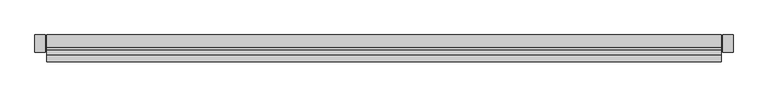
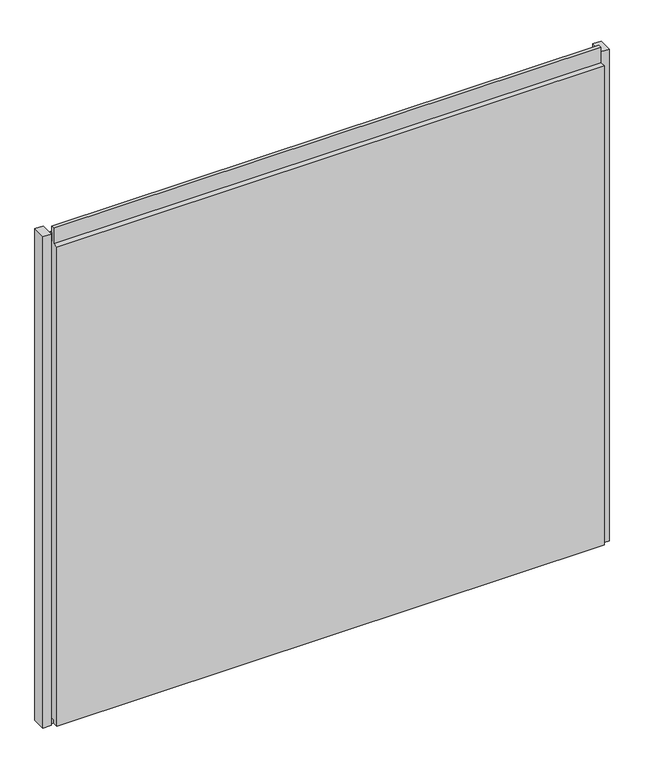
"""IFC4 building model written with IfcOpenShell, lengths in millimetres: plate geometry, Trimo_Qbiss Screen_Normal Panel-HORIZONTAL : HR - B-F."""

from ifc_helpers import new_model, si_unit, frame, origin, place, context, project, spatial, polyline, outline, extrude, source, transform, mapped, element, save


def plate_b1b6f3ce(model_context):
    return source(origin(), model_context, "Body", "SweptSolid", [
        extrude(outline(polyline([(-634.25, 67.8978162), (-653.25, 67.8978162), (-653.25, 100.0), (-634.25, 100.0), (-634.25, 67.8978162)])), frame((0.0, 0.0, -1.0), z_axis=(0.0, 0.0, 1.0), x_axis=(1.0, 0.0, 0.0)), (0.0, 0.0, 1.0), 1200.0),
        extrude(outline(polyline([(653.25, 67.8978162), (634.25, 67.8978162), (634.25, 100.0), (653.25, 100.0), (653.25, 67.8978162)])), frame((0.0, 0.0, -1.0), z_axis=(0.0, 0.0, 1.0), x_axis=(1.0, 0.0, 0.0)), (0.0, 0.0, 1.0), 1200.0),
        extrude(outline(polyline([(631.25, 76.0), (631.25, 71.0), (-631.25, 71.0), (-631.25, 76.0), (631.25, 76.0)])), frame((0.0, 0.0, 1178.0), z_axis=(0.0, 0.0, 1.0), x_axis=(1.0, 0.0, 0.0)), (0.0, 0.0, 1.0), 21.0),
        extrude(outline(polyline([(71.0, 1177.0), (100.0, 1177.0), (100.0, 0.0), (72.0, 0.0), (72.0, 15.5), (62.0, 15.5), (62.0, 7.0), (50.0, 7.0), (50.0, 1177.0), (63.0, 1177.0), (63.0, 1214.5), (71.0, 1214.5), (71.0, 1177.0)])), frame((-631.25, 0.0, 0.0), z_axis=(1.0, 0.0, 0.0), x_axis=(0.0, 1.0, 0.0)), (0.0, 0.0, 1.0), 1262.5),
    ])


if __name__ == "__main__":
    model = new_model("IFC4")
    model_context = context("Model", 3, world=origin())
    ifc_project = project(units=[si_unit("LENGTHUNIT", "METRE", prefix="MILLI")], contexts=[model_context])
    site = spatial("IfcSite", under=ifc_project)
    building = spatial("IfcBuilding", under=site)
    placement = place(None, origin())
    plate_shape = plate_b1b6f3ce(model_context)
    element("IfcPlate", 1, ObjectType="Trimo_Qbiss Screen_Normal Panel-HORIZONTAL : HR - B-F", at=placement, inside=building, context=model_context, shape_type="MappedRepresentation", body=[
        mapped(plate_shape, transform((0.0, 0.0, 0.0), x_axis=(1.0, 0.0, 0.0), y_axis=(0.0, 1.0, 0.0), z_axis=(0.0, 0.0, 1.0))),
    ])
    save(model, "model.ifc")
